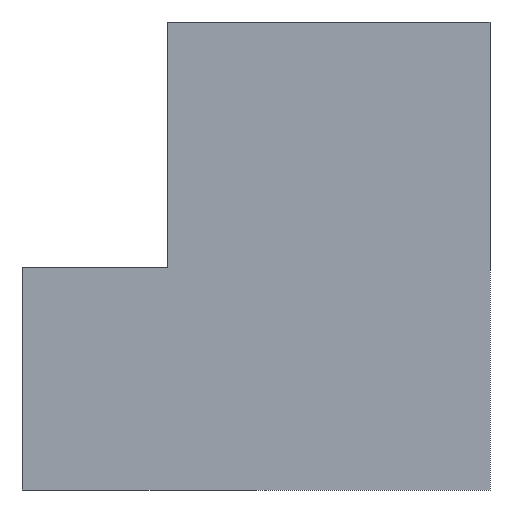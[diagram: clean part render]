
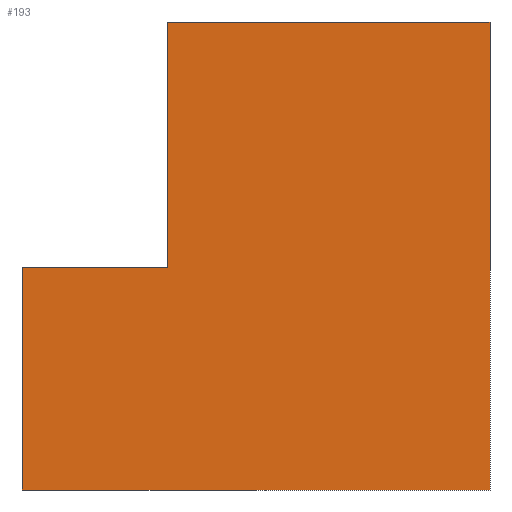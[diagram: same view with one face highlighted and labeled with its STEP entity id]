
A CAD part, left-side view. The second image highlights one B-rep face of the part: STEP entity #193.
In plain terms, the highlighted planar face has unit normal (-1, 0, 0).
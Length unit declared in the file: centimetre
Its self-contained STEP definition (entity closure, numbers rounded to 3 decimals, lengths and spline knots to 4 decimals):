
#2 = DIRECTION ( 'NONE',  ( 0., 0., 1. ) ) ;
#13 = CARTESIAN_POINT ( 'NONE',  ( 0., 1000., 475.1904 ) ) ;
#17 = DIRECTION ( 'NONE',  ( 0., 0., -1. ) ) ;
#23 = DIRECTION ( 'NONE',  ( 0., -1., 0. ) ) ;
#24 = EDGE_CURVE ( 'NONE', #347, #153, #196, .T. ) ;
#27 = FACE_OUTER_BOUND ( 'NONE', #426, .T. ) ;
#34 = CARTESIAN_POINT ( 'NONE',  ( 0., 689.2556, 475.1904 ) ) ;
#35 = PLANE ( 'NONE',  #292 ) ;
#36 = VERTEX_POINT ( 'NONE', #172 ) ;
#37 = VERTEX_POINT ( 'NONE', #268 ) ;
#52 = DIRECTION ( 'NONE',  ( 0., -1., 0. ) ) ;
#67 = DIRECTION ( 'NONE',  ( 0., 0., -1. ) ) ;
#75 = VECTOR ( 'NONE', #2, 100. ) ;
#88 = ORIENTED_EDGE ( 'NONE', *, *, #425, .F. ) ;
#89 = EDGE_CURVE ( 'NONE', #148, #36, #104, .T. ) ;
#96 = VECTOR ( 'NONE', #52, 100. ) ;
#104 = LINE ( 'NONE', #238, #294 ) ;
#128 = LINE ( 'NONE', #224, #176 ) ;
#135 = VECTOR ( 'NONE', #23, 100. ) ;
#139 = DIRECTION ( 'NONE',  ( 0., 0., -1. ) ) ;
#148 = VERTEX_POINT ( 'NONE', #13 ) ;
#153 = VERTEX_POINT ( 'NONE', #416 ) ;
#155 = CARTESIAN_POINT ( 'NONE',  ( 0., 0., 1000. ) ) ;
#170 = DIRECTION ( 'NONE',  ( 0., -1., 0. ) ) ;
#172 = CARTESIAN_POINT ( 'NONE',  ( 0., 689.2556, 475.1904 ) ) ;
#176 = VECTOR ( 'NONE', #17, 100. ) ;
#180 = ORIENTED_EDGE ( 'NONE', *, *, #411, .F. ) ;
#193 = ADVANCED_FACE ( 'NONE', ( #27 ), #35, .F. ) ;
#196 = LINE ( 'NONE', #332, #135 ) ;
#205 = EDGE_CURVE ( 'NONE', #148, #347, #277, .T. ) ;
#209 = CARTESIAN_POINT ( 'NONE',  ( 0., 1000., 1000. ) ) ;
#222 = ORIENTED_EDGE ( 'NONE', *, *, #24, .T. ) ;
#224 = CARTESIAN_POINT ( 'NONE',  ( 0., 0., 1000. ) ) ;
#238 = CARTESIAN_POINT ( 'NONE',  ( 0., 689.2556, 475.1904 ) ) ;
#250 = ORIENTED_EDGE ( 'NONE', *, *, #89, .F. ) ;
#268 = CARTESIAN_POINT ( 'NONE',  ( 0., 689.2556, 1000. ) ) ;
#277 = LINE ( 'NONE', #209, #358 ) ;
#292 = AXIS2_PLACEMENT_3D ( 'NONE', #412, #320, #67 ) ;
#294 = VECTOR ( 'NONE', #170, 100. ) ;
#299 = ORIENTED_EDGE ( 'NONE', *, *, #382, .F. ) ;
#302 = LINE ( 'NONE', #364, #96 ) ;
#320 = DIRECTION ( 'NONE',  ( 1., 0., 0. ) ) ;
#330 = ORIENTED_EDGE ( 'NONE', *, *, #205, .T. ) ;
#332 = CARTESIAN_POINT ( 'NONE',  ( 0., 1000., 0. ) ) ;
#347 = VERTEX_POINT ( 'NONE', #354 ) ;
#354 = CARTESIAN_POINT ( 'NONE',  ( 0., 1000., 0. ) ) ;
#358 = VECTOR ( 'NONE', #139, 100. ) ;
#364 = CARTESIAN_POINT ( 'NONE',  ( 0., 1000., 1000. ) ) ;
#382 = EDGE_CURVE ( 'NONE', #395, #153, #128, .T. ) ;
#395 = VERTEX_POINT ( 'NONE', #155 ) ;
#411 = EDGE_CURVE ( 'NONE', #37, #395, #302, .T. ) ;
#412 = CARTESIAN_POINT ( 'NONE',  ( 0., 1000., 1000. ) ) ;
#416 = CARTESIAN_POINT ( 'NONE',  ( 0., 0., 0. ) ) ;
#425 = EDGE_CURVE ( 'NONE', #36, #37, #429, .T. ) ;
#426 = EDGE_LOOP ( 'NONE', ( #180, #88, #250, #330, #222, #299 ) ) ;
#429 = LINE ( 'NONE', #34, #75 ) ;
